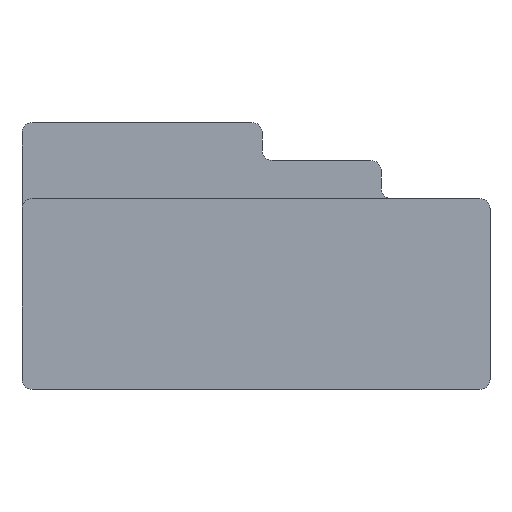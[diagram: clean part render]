
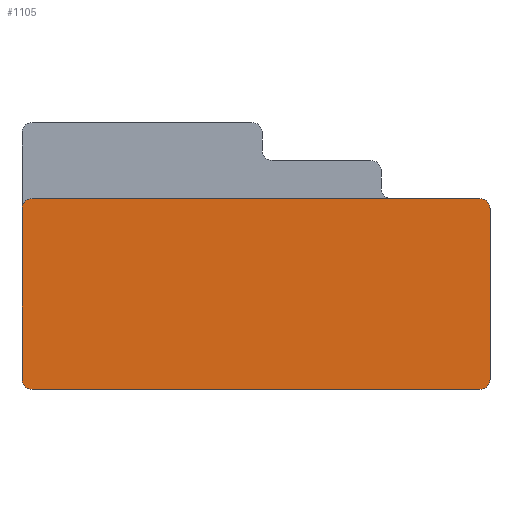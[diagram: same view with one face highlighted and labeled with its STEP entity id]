
A CAD part, front view. The second image highlights one B-rep face of the part: STEP entity #1105.
In plain terms, the highlighted planar face has unit normal (0, -1, 0).
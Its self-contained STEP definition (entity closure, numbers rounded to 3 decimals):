
#200=CARTESIAN_POINT('',(-10.9,-11.6,8.8));
#201=DIRECTION('',(0.,-1.,0.));
#202=DIRECTION('',(0.,0.,1.));
#203=AXIS2_PLACEMENT_3D('',#200,#201,#202);
#205=CARTESIAN_POINT('',(10.9,-11.6,8.8));
#206=DIRECTION('',(0.,-1.,0.));
#207=DIRECTION('',(1.,0.,0.));
#208=AXIS2_PLACEMENT_3D('',#205,#206,#207);
#210=CARTESIAN_POINT('',(10.9,-11.6,0.5));
#211=DIRECTION('',(0.,-1.,0.));
#212=DIRECTION('',(0.,0.,-1.));
#213=AXIS2_PLACEMENT_3D('',#210,#211,#212);
#215=CARTESIAN_POINT('',(-10.9,-11.6,0.5));
#216=DIRECTION('',(0.,-1.,0.));
#217=DIRECTION('',(-1.,0.,0.));
#218=AXIS2_PLACEMENT_3D('',#215,#216,#217);
#220=DIRECTION('',(0.,0.,1.));
#221=VECTOR('',#220,8.3);
#222=CARTESIAN_POINT('',(-11.4,-11.6,0.5));
#223=LINE('',#222,#221);
#308=DIRECTION('',(1.,0.,0.));
#309=VECTOR('',#308,21.8);
#310=CARTESIAN_POINT('',(-10.9,-11.6,9.3));
#311=LINE('',#310,#309);
#500=DIRECTION('',(1.,0.,0.));
#501=VECTOR('',#500,21.8);
#502=CARTESIAN_POINT('',(-10.9,-11.6,0.));
#503=LINE('',#502,#501);
#570=DIRECTION('',(0.,0.,1.));
#571=VECTOR('',#570,8.3);
#572=CARTESIAN_POINT('',(11.4,-11.6,0.5));
#573=LINE('',#572,#571);
#716=CARTESIAN_POINT('',(-10.9,-11.6,9.3));
#717=CARTESIAN_POINT('',(-11.4,-11.6,8.8));
#718=VERTEX_POINT('',#716);
#719=VERTEX_POINT('',#717);
#744=CARTESIAN_POINT('',(11.4,-11.6,8.8));
#745=VERTEX_POINT('',#744);
#746=CARTESIAN_POINT('',(10.9,-11.6,9.3));
#747=VERTEX_POINT('',#746);
#748=CARTESIAN_POINT('',(10.9,-11.6,0.));
#749=CARTESIAN_POINT('',(11.4,-11.6,0.5));
#750=VERTEX_POINT('',#748);
#751=VERTEX_POINT('',#749);
#760=CARTESIAN_POINT('',(-11.4,-11.6,0.5));
#761=VERTEX_POINT('',#760);
#762=CARTESIAN_POINT('',(-10.9,-11.6,0.));
#763=VERTEX_POINT('',#762);
#1083=CARTESIAN_POINT('',(-11.4,-11.6,0.));
#1084=DIRECTION('',(0.,-1.,0.));
#1085=DIRECTION('',(1.,0.,0.));
#1086=AXIS2_PLACEMENT_3D('',#1083,#1084,#1085);
#1087=PLANE('',#1086);
#1089=ORIENTED_EDGE('',*,*,#1088,.F.);
#1091=ORIENTED_EDGE('',*,*,#1090,.T.);
#1093=ORIENTED_EDGE('',*,*,#1092,.F.);
#1095=ORIENTED_EDGE('',*,*,#1094,.F.);
#1096=ORIENTED_EDGE('',*,*,#1073,.F.);
#1098=ORIENTED_EDGE('',*,*,#1097,.F.);
#1100=ORIENTED_EDGE('',*,*,#1099,.F.);
#1102=ORIENTED_EDGE('',*,*,#1101,.T.);
#1103=EDGE_LOOP('',(#1089,#1091,#1093,#1095,#1096,#1098,#1100,#1102));
#1104=FACE_OUTER_BOUND('',#1103,.F.);
#1105=ADVANCED_FACE('',(#1104),#1087,.T.);
#204=CIRCLE('',#203,0.5);
#209=CIRCLE('',#208,0.5);
#214=CIRCLE('',#213,0.5);
#219=CIRCLE('',#218,0.5);
#1073=EDGE_CURVE('',#750,#751,#214,.T.);
#1088=EDGE_CURVE('',#718,#719,#204,.T.);
#1090=EDGE_CURVE('',#718,#747,#311,.T.);
#1092=EDGE_CURVE('',#745,#747,#209,.T.);
#1094=EDGE_CURVE('',#751,#745,#573,.T.);
#1097=EDGE_CURVE('',#763,#750,#503,.T.);
#1099=EDGE_CURVE('',#761,#763,#219,.T.);
#1101=EDGE_CURVE('',#761,#719,#223,.T.);
